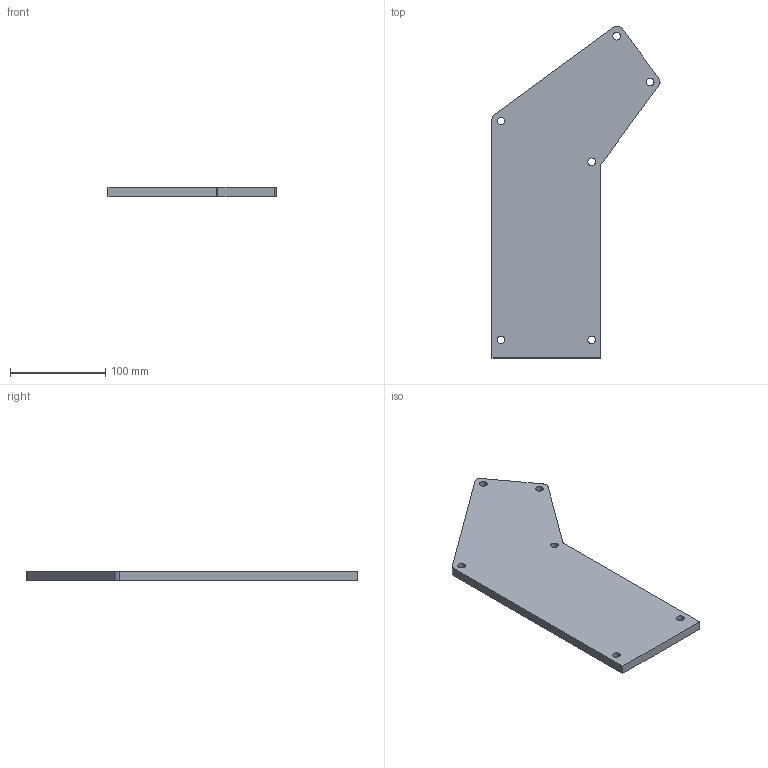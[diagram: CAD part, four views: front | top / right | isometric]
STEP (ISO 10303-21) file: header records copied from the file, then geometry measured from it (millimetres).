
FILE_DESCRIPTION (( 'STEP AP203' ), '1' );
FILE_NAME ('Panel.STEP', '2025-12-16T02:17:34', ( '' ), ( '' ), 'SwSTEP 2.0', 'SolidWorks 2019', '' );
FILE_SCHEMA (( 'CONFIG_CONTROL_DESIGN' ));
Length unit declared in the file: inch
Products named in the file (1): Panel
Bounding box: 176.67 x 349.11 x 9.53 mm (x, y, z)
Volume: 368612.1 mm3; surface area: 87561.3 mm2
Topology: 1 solids, 1 shells, 24 faces, 66 edges, 44 vertices
Faces by surface type: cylinder 16, plane 8
Entity records: 885 total; most frequent: DIRECTION 148, CARTESIAN_POINT 135, ORIENTED_EDGE 132, EDGE_CURVE 66, AXIS2_PLACEMENT_3D 57, VERTEX_POINT 44, EDGE_LOOP 36, VECTOR 34
